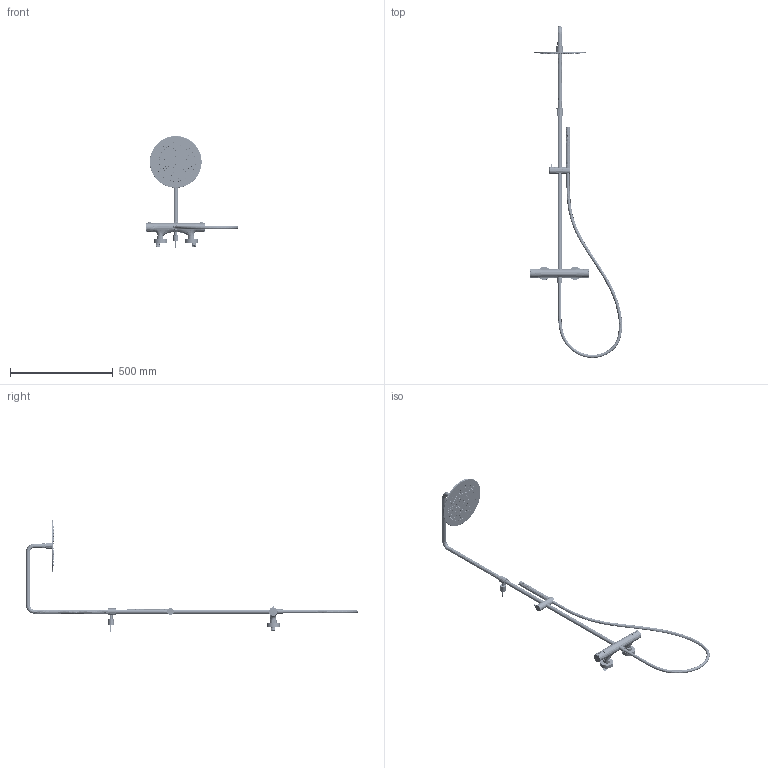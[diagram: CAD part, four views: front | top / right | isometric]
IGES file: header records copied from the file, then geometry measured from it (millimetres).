
Start section:  PTC IGES file: 60626.igs
Global section: file name: 60626.igs; native system: Creo Parametric by PTC Inc.; preprocessor: 2022014; author: carloff; organization: Unknown; date: 20240312.155026; units: millimetre
Bounding box: 448.43 x 1615.19 x 544.9 mm (x, y, z)
Surface area: 737084 mm2 (no closed solid volume)
Topology: 0 solids, 0 shells, 4855 faces, 22646 edges, 22632 vertices
Faces by surface type: revolution 2941, bspline 1906, extrusion 8
